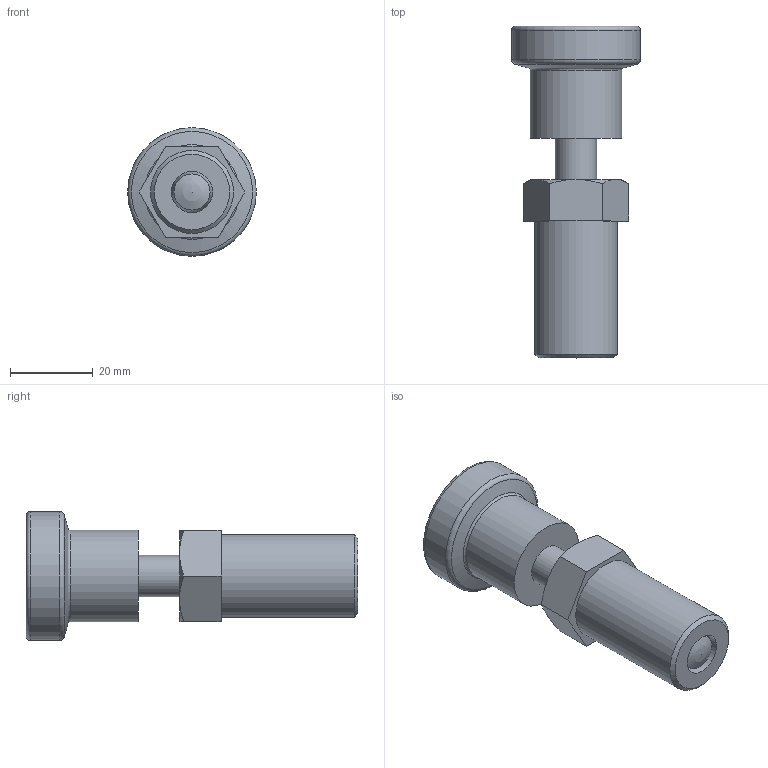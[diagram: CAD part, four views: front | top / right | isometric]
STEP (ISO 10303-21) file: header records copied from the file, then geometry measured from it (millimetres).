
FILE_DESCRIPTION( ( 'STEP AP203' ), '1' );
FILE_NAME( 'C:/Temp/Ganter_Step_05_03_2020/data/3_1/gn617_n/gn617n_a/Stainless Steel Indexing plunger GN 617-10-A-NI (activated).stp', '2020-03-12T08:42:58', ( 'License CC BY-ND 4.0' ), ( 'CADENAS' ), ' ', 'PARTsolutions', ' ' );
FILE_SCHEMA( ( 'CONFIG_CONTROL_DESIGN' ) );
Length unit declared in the file: millimetre
Products named in the file (3): Stainless Steel Indexing plunger GN 617-10-A-NI (activated); _Stainless Steel-Indexing plunger GN 617-10-A-NI -2; _Indexing plunger GN 617-10-A-NI (1)-1
Assembly tree (2 placements, depth 2):
  Stainless Steel Indexing plunger GN 617-10-A-NI (activated)
    _Stainless Steel-Indexing plunger GN 617-10-A-NI -2
    _Indexing plunger GN 617-10-A-NI (1)-1
Bounding box: 31 x 80 x 31 mm (x, y, z)
Volume: 27097.7 mm3; surface area: 10970.9 mm2
Topology: 2 solids, 2 shells, 38 faces, 73 edges, 44 vertices
Faces by surface type: plane 15, cone 9, cylinder 9, torus 3, bspline 1, sphere 1
Full cylindrical faces by diameter (mm): 10 x4, 18 x2, 20 x1, 21.99 x1, 31 x1
Entity records: 1043 total; most frequent: CARTESIAN_POINT 238, DIRECTION 152, ORIENTED_EDGE 108, AXIS2_PLACEMENT_3D 70, EDGE_LOOP 62, EDGE_CURVE 54, FACE_OUTER_BOUND 50, VERTEX_POINT 44
